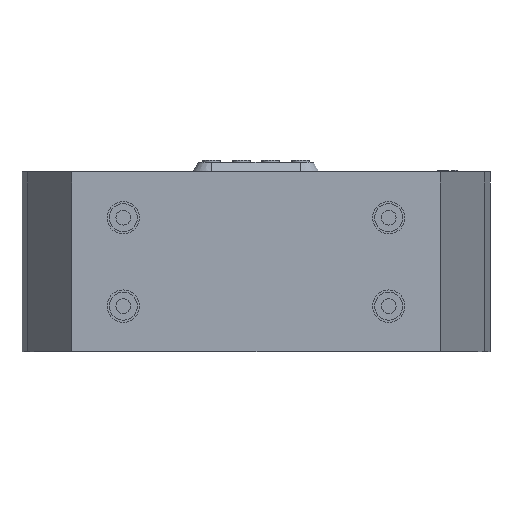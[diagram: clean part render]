
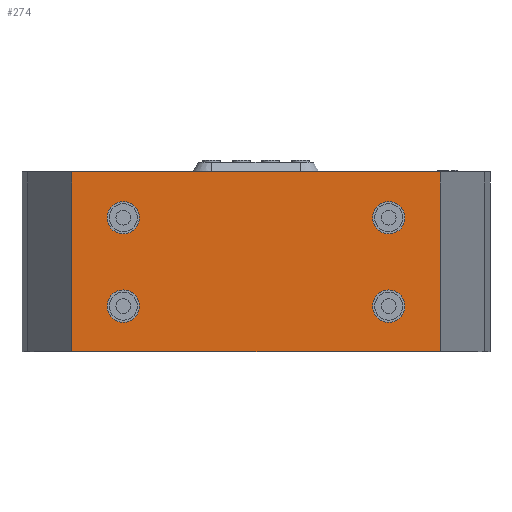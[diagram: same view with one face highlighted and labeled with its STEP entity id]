
A CAD part, front view. The second image highlights one B-rep face of the part: STEP entity #274.
In plain terms, the highlighted planar face has unit normal (0, -1, 0).
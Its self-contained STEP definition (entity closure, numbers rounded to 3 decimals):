
#274=ADVANCED_FACE('',(#5477,#5479,#5481,#5483,#5485),#5487,.T.);
#5477=FACE_BOUND('',#5478,.T.);
#5478=EDGE_LOOP('',(#9482,#9483,#9484,#9485));
#5479=FACE_BOUND('',#5480,.T.);
#5480=EDGE_LOOP('',(#9486));
#5481=FACE_BOUND('',#5482,.T.);
#5482=EDGE_LOOP('',(#9487));
#5483=FACE_BOUND('',#5484,.T.);
#5484=EDGE_LOOP('',(#9488));
#5485=FACE_BOUND('',#5486,.T.);
#5486=EDGE_LOOP('',(#9489));
#5487=PLANE('',#5488);
#5488=AXIS2_PLACEMENT_3D('',#5489,#5490,#5491);
#5489=CARTESIAN_POINT('',(-125.,-83.,0.));
#5490=DIRECTION('',(0.,-1.,0.));
#5491=DIRECTION('',(1.,0.,0.));
#9482=ORIENTED_EDGE('',*,*,#12672,.T.);
#9483=ORIENTED_EDGE('',*,*,#12673,.T.);
#9484=ORIENTED_EDGE('',*,*,#12674,.F.);
#9485=ORIENTED_EDGE('',*,*,#12675,.F.);
#9486=ORIENTED_EDGE('',*,*,#12668,.T.);
#9487=ORIENTED_EDGE('',*,*,#12669,.T.);
#9488=ORIENTED_EDGE('',*,*,#12670,.T.);
#9489=ORIENTED_EDGE('',*,*,#12671,.T.);
#12668=EDGE_CURVE('',#14293,#14293,#14294,.F.);
#12669=EDGE_CURVE('',#14295,#14295,#14296,.F.);
#12670=EDGE_CURVE('',#14297,#14297,#14298,.F.);
#12671=EDGE_CURVE('',#14299,#14299,#14300,.F.);
#12672=EDGE_CURVE('',#14301,#14302,#14303,.T.);
#12673=EDGE_CURVE('',#14302,#14304,#14305,.T.);
#12674=EDGE_CURVE('',#14306,#14304,#14307,.T.);
#12675=EDGE_CURVE('',#14301,#14306,#14308,.T.);
#14293=VERTEX_POINT('',#17042);
#14294=CIRCLE('',#17043,11.);
#14295=VERTEX_POINT('',#17047);
#14296=CIRCLE('',#17048,11.);
#14297=VERTEX_POINT('',#17052);
#14298=CIRCLE('',#17053,11.);
#14299=VERTEX_POINT('',#17057);
#14300=CIRCLE('',#17058,11.);
#14301=VERTEX_POINT('',#17062);
#14302=VERTEX_POINT('',#17063);
#14303=LINE('',#17064,#17065);
#14304=VERTEX_POINT('',#17067);
#14305=LINE('',#17068,#17069);
#14306=VERTEX_POINT('',#17071);
#14307=LINE('',#17072,#17073);
#14308=LINE('',#17075,#17076);
#17042=CARTESIAN_POINT('',(-79.,-83.,91.));
#17043=AXIS2_PLACEMENT_3D('',#17044,#17045,#17046);
#17044=CARTESIAN_POINT('',(-90.,-83.,91.));
#17045=DIRECTION('',(0.,-1.,0.));
#17046=DIRECTION('',(1.,0.,0.));
#17047=CARTESIAN_POINT('',(101.,-83.,91.));
#17048=AXIS2_PLACEMENT_3D('',#17049,#17050,#17051);
#17049=CARTESIAN_POINT('',(90.,-83.,91.));
#17050=DIRECTION('',(0.,-1.,0.));
#17051=DIRECTION('',(1.,0.,0.));
#17052=CARTESIAN_POINT('',(101.,-83.,31.));
#17053=AXIS2_PLACEMENT_3D('',#17054,#17055,#17056);
#17054=CARTESIAN_POINT('',(90.,-83.,31.));
#17055=DIRECTION('',(0.,-1.,0.));
#17056=DIRECTION('',(1.,0.,0.));
#17057=CARTESIAN_POINT('',(-79.,-83.,31.));
#17058=AXIS2_PLACEMENT_3D('',#17059,#17060,#17061);
#17059=CARTESIAN_POINT('',(-90.,-83.,31.));
#17060=DIRECTION('',(0.,-1.,0.));
#17061=DIRECTION('',(1.,0.,0.));
#17062=CARTESIAN_POINT('',(-125.,-83.,0.));
#17063=CARTESIAN_POINT('',(125.,-83.,0.));
#17064=CARTESIAN_POINT('',(-125.,-83.,0.));
#17065=VECTOR('',#17066,1.);
#17066=DIRECTION('',(1.,0.,0.));
#17067=CARTESIAN_POINT('',(125.,-83.,122.));
#17068=CARTESIAN_POINT('',(125.,-83.,0.));
#17069=VECTOR('',#17070,1.);
#17070=DIRECTION('',(0.,0.,1.));
#17071=CARTESIAN_POINT('',(-125.,-83.,122.));
#17072=CARTESIAN_POINT('',(-125.,-83.,122.));
#17073=VECTOR('',#17074,1.);
#17074=DIRECTION('',(1.,0.,0.));
#17075=CARTESIAN_POINT('',(-125.,-83.,0.));
#17076=VECTOR('',#17077,1.);
#17077=DIRECTION('',(0.,0.,1.));
